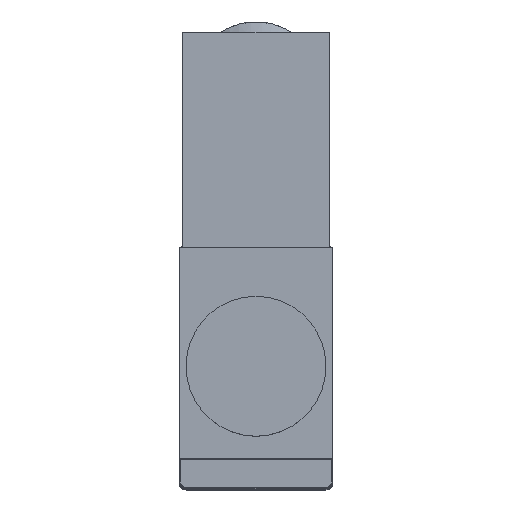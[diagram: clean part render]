
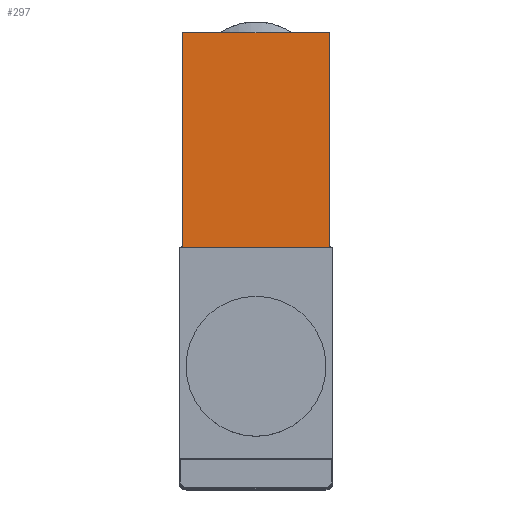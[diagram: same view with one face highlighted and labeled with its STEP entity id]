
A CAD part, top view. The second image highlights one B-rep face of the part: STEP entity #297.
In plain terms, the highlighted planar face has unit normal (0, 0, 1).
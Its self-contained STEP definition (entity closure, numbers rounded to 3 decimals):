
#297 = ADVANCED_FACE( '', ( #700 ), #701, .F. );
#700 = FACE_OUTER_BOUND( '', #1205, .T. );
#701 = PLANE( '', #1206 );
#1205 = EDGE_LOOP( '', ( #2004, #2005, #2006, #2007 ) );
#1206 = AXIS2_PLACEMENT_3D( '', #2008, #2009, #2010 );
#2004 = ORIENTED_EDGE( '', *, *, #2881, .F. );
#2005 = ORIENTED_EDGE( '', *, *, #2902, .F. );
#2006 = ORIENTED_EDGE( '', *, *, #2940, .F. );
#2007 = ORIENTED_EDGE( '', *, *, #2751, .T. );
#2008 = CARTESIAN_POINT( '', ( -10.5, 47.7, 103.7 ) );
#2009 = DIRECTION( '', ( 0., 0., -1. ) );
#2010 = DIRECTION( '', ( -1., 0., 0. ) );
#2751 = EDGE_CURVE( '', #3264, #3261, #3265, .T. );
#2881 = EDGE_CURVE( '', #3476, #3261, #3478, .T. );
#2902 = EDGE_CURVE( '', #3506, #3476, #3508, .T. );
#2940 = EDGE_CURVE( '', #3264, #3506, #3562, .T. );
#3261 = VERTEX_POINT( '', #3989 );
#3264 = VERTEX_POINT( '', #3993 );
#3265 = LINE( '', #3994, #3995 );
#3476 = VERTEX_POINT( '', #4265 );
#3478 = LINE( '', #4268, #4269 );
#3506 = VERTEX_POINT( '', #4324 );
#3508 = LINE( '', #4327, #4328 );
#3562 = LINE( '', #4399, #4400 );
#3989 = CARTESIAN_POINT( '', ( -10.5, 17., 103.7 ) );
#3993 = CARTESIAN_POINT( '', ( -10.5, 47.7, 103.7 ) );
#3994 = CARTESIAN_POINT( '', ( -10.5, 47.7, 103.7 ) );
#3995 = VECTOR( '', #4817, 1000. );
#4265 = CARTESIAN_POINT( '', ( 10.5, 17., 103.7 ) );
#4268 = CARTESIAN_POINT( '', ( 0., 17., 103.7 ) );
#4269 = VECTOR( '', #4995, 1000. );
#4324 = CARTESIAN_POINT( '', ( 10.5, 47.7, 103.7 ) );
#4327 = CARTESIAN_POINT( '', ( 10.5, 47.7, 103.7 ) );
#4328 = VECTOR( '', #5018, 1000. );
#4399 = CARTESIAN_POINT( '', ( -10.5, 47.7, 103.7 ) );
#4400 = VECTOR( '', #5060, 1000. );
#4817 = DIRECTION( '', ( 0., -1., 0. ) );
#4995 = DIRECTION( '', ( -1., 0., 0. ) );
#5018 = DIRECTION( '', ( 0., -1., 0. ) );
#5060 = DIRECTION( '', ( 1., 0., 0. ) );
